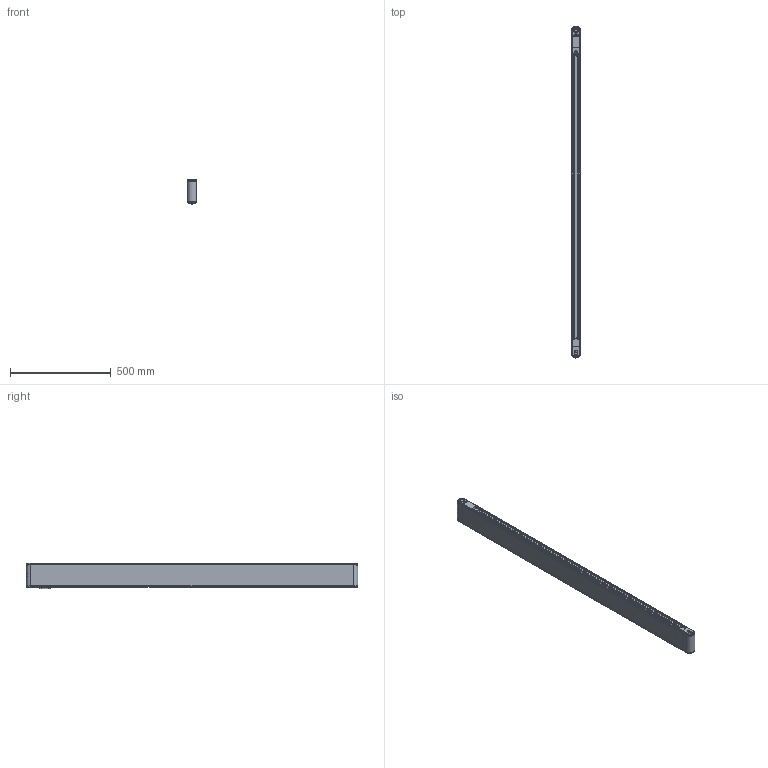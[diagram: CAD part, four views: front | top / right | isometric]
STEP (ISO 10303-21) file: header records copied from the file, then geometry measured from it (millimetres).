
FILE_DESCRIPTION(/* description */ (''),/* implementation_level */ '2;1');
FILE_NAME(/* name */ 'G:\DATEN\CAD\Förderband\Marketing\3D-Modelle (Standard)\FR-40-120\FR-40-120-1600-K.stp',/* time_stamp */ '2019-05-08T08:38:00+02:00',/* author */ ('melanie.ochs'),/* organization */ (''),/* preprocessor_version */ 'ST-DEVELOPER v17',/* originating_system */ 'Autodesk Inventor 2019',/* authorisation */ '');
FILE_SCHEMA (('CONFIG_CONTROL_DESIGN'));
Length unit declared in the file: centimetre
Products named in the file (1): FR-40-120-1600-K
Bounding box: 46.6 x 1646.6 x 128.53 mm (x, y, z)
Volume: 2717347.7 mm3; surface area: 1650363.8 mm2
Topology: 6 solids, 29 shells, 1053 faces, 2936 edges, 1973 vertices
Faces by surface type: plane 535, cylinder 293, bspline 122, cone 78, torus 25
Full cylindrical faces by diameter (mm): 2 x2, 4 x6, 4.3 x4, 4.64 x2, 4.917 x3, 5 x11, 5.5 x8, 6 x6, 6.5 x1, 6.647 x3, 8 x4, 8.3 x12, 8.5 x8, 8.773 x1, 10 x1, 11 x1, 12 x4, 15 x4, 20 x4, 25 x2, 28 x4
Entity records: 36574 total; most frequent: CARTESIAN_POINT 8596, ORIENTED_EDGE 5848, DIRECTION 5309, EDGE_CURVE 2924, VERTEX_POINT 1973, AXIS2_PLACEMENT_3D 1852, LINE 1605, VECTOR 1605
